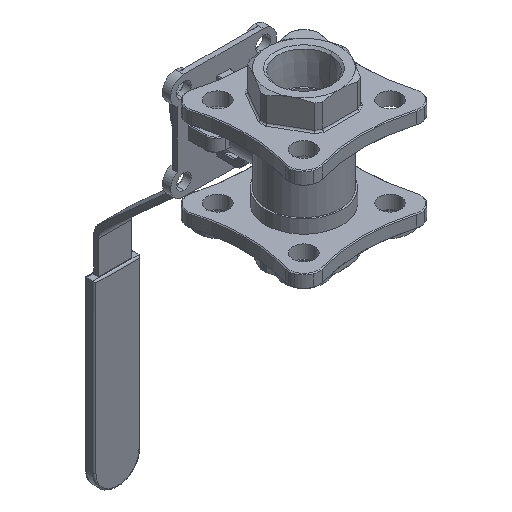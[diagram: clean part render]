
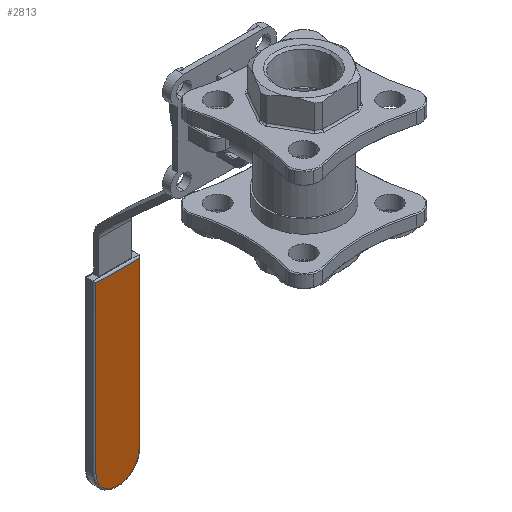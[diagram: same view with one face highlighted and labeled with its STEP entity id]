
A CAD part, isometric view. The second image highlights one B-rep face of the part: STEP entity #2813.
In plain terms, the highlighted planar face has unit normal (0, -1, 0).
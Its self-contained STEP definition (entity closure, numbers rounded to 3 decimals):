
#121 = ORIENTED_EDGE ( 'NONE', *, *, #5035, .T. ) ;
#148 = CARTESIAN_POINT ( 'NONE',  ( -7., 56.25, -57.291 ) ) ;
#368 = EDGE_CURVE ( 'NONE', #14483, #13193, #11055, .T. ) ;
#656 = DIRECTION ( 'NONE',  ( 0., 0., 1. ) ) ;
#696 = VECTOR ( 'NONE', #4352, 1000. ) ;
#761 = CARTESIAN_POINT ( 'NONE',  ( -6.5, 56.25, -107. ) ) ;
#871 = EDGE_LOOP ( 'NONE', ( #121, #13436, #1221, #13706 ) ) ;
#1221 = ORIENTED_EDGE ( 'NONE', *, *, #368, .T. ) ;
#1392 = PLANE ( 'NONE',  #11694 ) ;
#1725 = LINE ( 'NONE', #148, #10712 ) ;
#2026 = EDGE_CURVE ( 'NONE', #10627, #14483, #7171, .T. ) ;
#2197 = DIRECTION ( 'NONE',  ( 0., -1., 0. ) ) ;
#2813 = ADVANCED_FACE ( 'NONE', ( #12502 ), #1392, .F. ) ;
#3762 = CARTESIAN_POINT ( 'NONE',  ( 0., 56.25, -107. ) ) ;
#4072 = DIRECTION ( 'NONE',  ( 0., 0., -1. ) ) ;
#4352 = DIRECTION ( 'NONE',  ( 0., 0., 1. ) ) ;
#5035 = EDGE_CURVE ( 'NONE', #11265, #10627, #1725, .T. ) ;
#5612 = CARTESIAN_POINT ( 'NONE',  ( -6.5, 56.25, 0. ) ) ;
#5907 = CARTESIAN_POINT ( 'NONE',  ( 6.5, 56.25, 0. ) ) ;
#6070 = CARTESIAN_POINT ( 'NONE',  ( -6.5, 56.25, -57.291 ) ) ;
#6636 = VECTOR ( 'NONE', #4072, 1000. ) ;
#7171 = LINE ( 'NONE', #5612, #6636 ) ;
#7494 = LINE ( 'NONE', #5907, #696 ) ;
#9648 = CARTESIAN_POINT ( 'NONE',  ( 6.5, 56.25, -57.291 ) ) ;
#9903 = EDGE_CURVE ( 'NONE', #13193, #11265, #7494, .T. ) ;
#10627 = VERTEX_POINT ( 'NONE', #6070 ) ;
#10712 = VECTOR ( 'NONE', #13885, 1000. ) ;
#11055 = CIRCLE ( 'NONE', #15282, 6.5 ) ;
#11265 = VERTEX_POINT ( 'NONE', #9648 ) ;
#11694 = AXIS2_PLACEMENT_3D ( 'NONE', #15122, #13589, #12026 ) ;
#12026 = DIRECTION ( 'NONE',  ( 0., 0., 1. ) ) ;
#12502 = FACE_OUTER_BOUND ( 'NONE', #871, .T. ) ;
#13193 = VERTEX_POINT ( 'NONE', #14347 ) ;
#13436 = ORIENTED_EDGE ( 'NONE', *, *, #2026, .T. ) ;
#13589 = DIRECTION ( 'NONE',  ( 0., 1., 0. ) ) ;
#13706 = ORIENTED_EDGE ( 'NONE', *, *, #9903, .T. ) ;
#13885 = DIRECTION ( 'NONE',  ( -1., 0., 0. ) ) ;
#14347 = CARTESIAN_POINT ( 'NONE',  ( 6.5, 56.25, -107. ) ) ;
#14483 = VERTEX_POINT ( 'NONE', #761 ) ;
#15122 = CARTESIAN_POINT ( 'NONE',  ( 0., 56.25, 0. ) ) ;
#15282 = AXIS2_PLACEMENT_3D ( 'NONE', #3762, #2197, #656 ) ;
